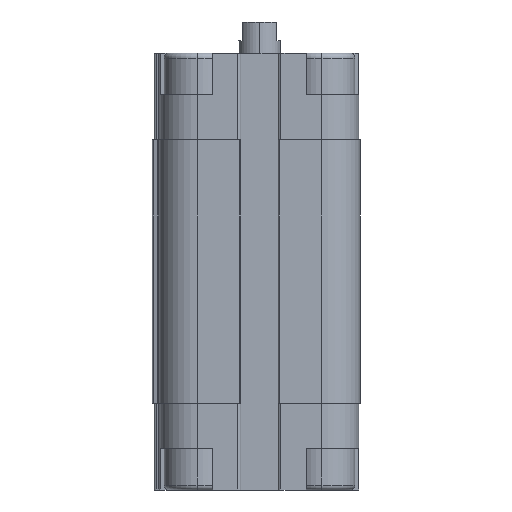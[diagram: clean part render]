
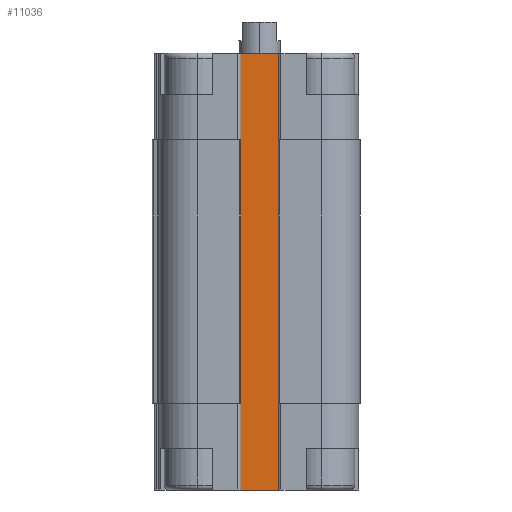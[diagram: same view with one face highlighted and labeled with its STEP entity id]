
A CAD part, left-side view. The second image highlights one B-rep face of the part: STEP entity #11036.
In plain terms, the highlighted planar face has unit normal (-1, 0, 0).
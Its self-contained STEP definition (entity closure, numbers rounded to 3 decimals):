
#1081 = PLANE ( 'NONE',  #15345 ) ;
#1251 = VERTEX_POINT ( 'NONE', #16955 ) ;
#1930 = LINE ( 'NONE', #7296, #6267 ) ;
#2182 = LINE ( 'NONE', #15372, #10431 ) ;
#2336 = DIRECTION ( 'NONE',  ( 0., -1., 0. ) ) ;
#2391 = FACE_OUTER_BOUND ( 'NONE', #9707, .T. ) ;
#2395 = LINE ( 'NONE', #11968, #9684 ) ;
#2806 = VERTEX_POINT ( 'NONE', #13377 ) ;
#2820 = CARTESIAN_POINT ( 'NONE',  ( -9.5, -3.2, -12.5 ) ) ;
#2936 = EDGE_CURVE ( 'NONE', #3792, #9816, #15128, .T. ) ;
#3002 = EDGE_CURVE ( 'NONE', #2806, #8870, #7490, .T. ) ;
#3090 = CARTESIAN_POINT ( 'NONE',  ( -9.5, 3., -63. ) ) ;
#3371 = LINE ( 'NONE', #8727, #7142 ) ;
#3792 = VERTEX_POINT ( 'NONE', #15161 ) ;
#3902 = ORIENTED_EDGE ( 'NONE', *, *, #10226, .T. ) ;
#3989 = ORIENTED_EDGE ( 'NONE', *, *, #14466, .T. ) ;
#4030 = CARTESIAN_POINT ( 'NONE',  ( -9.5, -3.2, -50.5 ) ) ;
#4442 = ORIENTED_EDGE ( 'NONE', *, *, #4549, .F. ) ;
#4549 = EDGE_CURVE ( 'NONE', #11507, #2806, #13981, .T. ) ;
#4765 = DIRECTION ( 'NONE',  ( 0., 0., 1. ) ) ;
#4889 = CARTESIAN_POINT ( 'NONE',  ( -9.5, 3., -63. ) ) ;
#5005 = CARTESIAN_POINT ( 'NONE',  ( -9.5, -3., 0. ) ) ;
#5400 = VECTOR ( 'NONE', #9643, 1000. ) ;
#5835 = CARTESIAN_POINT ( 'NONE',  ( -9.5, -3.2, -50.5 ) ) ;
#5849 = ORIENTED_EDGE ( 'NONE', *, *, #8284, .T. ) ;
#6207 = DIRECTION ( 'NONE',  ( 0., 0., 1. ) ) ;
#6267 = VECTOR ( 'NONE', #11418, 1000. ) ;
#6726 = CARTESIAN_POINT ( 'NONE',  ( -9.5, 3., 0. ) ) ;
#6934 = EDGE_CURVE ( 'NONE', #7515, #6968, #3371, .T. ) ;
#6968 = VERTEX_POINT ( 'NONE', #5835 ) ;
#6972 = VECTOR ( 'NONE', #6207, 1000. ) ;
#7045 = DIRECTION ( 'NONE',  ( 0., -1., 0. ) ) ;
#7052 = VERTEX_POINT ( 'NONE', #9871 ) ;
#7097 = LINE ( 'NONE', #4030, #5400 ) ;
#7142 = VECTOR ( 'NONE', #12772, 1000. ) ;
#7296 = CARTESIAN_POINT ( 'NONE',  ( -9.5, 3.2, -50.5 ) ) ;
#7490 = LINE ( 'NONE', #8883, #14989 ) ;
#7515 = VERTEX_POINT ( 'NONE', #11851 ) ;
#7536 = LINE ( 'NONE', #4889, #10644 ) ;
#7758 = CARTESIAN_POINT ( 'NONE',  ( -9.5, 3., -12.5 ) ) ;
#8034 = VECTOR ( 'NONE', #8359, 1000. ) ;
#8284 = EDGE_CURVE ( 'NONE', #9816, #7515, #2395, .T. ) ;
#8344 = CARTESIAN_POINT ( 'NONE',  ( -9.5, 3.2, -12.5 ) ) ;
#8359 = DIRECTION ( 'NONE',  ( 0., -1., 0. ) ) ;
#8440 = CARTESIAN_POINT ( 'NONE',  ( -9.5, 3.2, -12.5 ) ) ;
#8727 = CARTESIAN_POINT ( 'NONE',  ( -9.5, 3.2, -50.5 ) ) ;
#8756 = ORIENTED_EDGE ( 'NONE', *, *, #6934, .T. ) ;
#8870 = VERTEX_POINT ( 'NONE', #9390 ) ;
#8883 = CARTESIAN_POINT ( 'NONE',  ( -9.5, 3., -12.5 ) ) ;
#9390 = CARTESIAN_POINT ( 'NONE',  ( -9.5, 3., 0. ) ) ;
#9643 = DIRECTION ( 'NONE',  ( 0., 0., 1. ) ) ;
#9650 = EDGE_CURVE ( 'NONE', #8870, #14057, #11990, .T. ) ;
#9684 = VECTOR ( 'NONE', #13121, 1000. ) ;
#9707 = EDGE_LOOP ( 'NONE', ( #11315, #9831, #4442, #13481, #3902, #15091, #14900, #5849, #8756, #15664, #11462, #3989 ) ) ;
#9816 = VERTEX_POINT ( 'NONE', #15312 ) ;
#9831 = ORIENTED_EDGE ( 'NONE', *, *, #3002, .F. ) ;
#9871 = CARTESIAN_POINT ( 'NONE',  ( -9.5, 3., -50.5 ) ) ;
#10226 = EDGE_CURVE ( 'NONE', #1251, #7052, #1930, .T. ) ;
#10429 = LINE ( 'NONE', #15882, #15419 ) ;
#10431 = VECTOR ( 'NONE', #16675, 1000. ) ;
#10474 = DIRECTION ( 'NONE',  ( 0., -1., 0. ) ) ;
#10644 = VECTOR ( 'NONE', #14035, 1000. ) ;
#11020 = CARTESIAN_POINT ( 'NONE',  ( -9.5, -3., -12.5 ) ) ;
#11036 = ADVANCED_FACE ( 'NONE', ( #2391 ), #1081, .T. ) ;
#11315 = ORIENTED_EDGE ( 'NONE', *, *, #9650, .F. ) ;
#11418 = DIRECTION ( 'NONE',  ( 0., -1., 0. ) ) ;
#11462 = ORIENTED_EDGE ( 'NONE', *, *, #15678, .F. ) ;
#11507 = VERTEX_POINT ( 'NONE', #8344 ) ;
#11559 = LINE ( 'NONE', #14207, #6972 ) ;
#11851 = CARTESIAN_POINT ( 'NONE',  ( -9.5, -3., -50.5 ) ) ;
#11905 = VECTOR ( 'NONE', #7045, 1000. ) ;
#11968 = CARTESIAN_POINT ( 'NONE',  ( -9.5, -3., -63. ) ) ;
#11990 = LINE ( 'NONE', #6726, #17311 ) ;
#12273 = VERTEX_POINT ( 'NONE', #2820 ) ;
#12772 = DIRECTION ( 'NONE',  ( 0., -1., 0. ) ) ;
#13118 = DIRECTION ( 'NONE',  ( -1., 0., 0. ) ) ;
#13121 = DIRECTION ( 'NONE',  ( 0., 0., 1. ) ) ;
#13377 = CARTESIAN_POINT ( 'NONE',  ( -9.5, 3., -12.5 ) ) ;
#13481 = ORIENTED_EDGE ( 'NONE', *, *, #16646, .F. ) ;
#13981 = LINE ( 'NONE', #8440, #8034 ) ;
#14035 = DIRECTION ( 'NONE',  ( 0., 0., 1. ) ) ;
#14057 = VERTEX_POINT ( 'NONE', #5005 ) ;
#14207 = CARTESIAN_POINT ( 'NONE',  ( -9.5, -3., -12.5 ) ) ;
#14424 = EDGE_CURVE ( 'NONE', #3792, #7052, #7536, .T. ) ;
#14466 = EDGE_CURVE ( 'NONE', #15912, #14057, #11559, .T. ) ;
#14900 = ORIENTED_EDGE ( 'NONE', *, *, #2936, .T. ) ;
#14989 = VECTOR ( 'NONE', #4765, 1000. ) ;
#15091 = ORIENTED_EDGE ( 'NONE', *, *, #14424, .F. ) ;
#15128 = LINE ( 'NONE', #3090, #11905 ) ;
#15161 = CARTESIAN_POINT ( 'NONE',  ( -9.5, 3., -63. ) ) ;
#15312 = CARTESIAN_POINT ( 'NONE',  ( -9.5, -3., -63. ) ) ;
#15345 = AXIS2_PLACEMENT_3D ( 'NONE', #7758, #13118, #10474 ) ;
#15372 = CARTESIAN_POINT ( 'NONE',  ( -9.5, 3.2, -50.5 ) ) ;
#15419 = VECTOR ( 'NONE', #2336, 1000. ) ;
#15664 = ORIENTED_EDGE ( 'NONE', *, *, #16556, .T. ) ;
#15678 = EDGE_CURVE ( 'NONE', #15912, #12273, #10429, .T. ) ;
#15882 = CARTESIAN_POINT ( 'NONE',  ( -9.5, 9., -12.5 ) ) ;
#15912 = VERTEX_POINT ( 'NONE', #11020 ) ;
#16211 = DIRECTION ( 'NONE',  ( 0., -1., 0. ) ) ;
#16556 = EDGE_CURVE ( 'NONE', #6968, #12273, #7097, .T. ) ;
#16646 = EDGE_CURVE ( 'NONE', #1251, #11507, #2182, .T. ) ;
#16675 = DIRECTION ( 'NONE',  ( 0., 0., 1. ) ) ;
#16955 = CARTESIAN_POINT ( 'NONE',  ( -9.5, 3.2, -50.5 ) ) ;
#17311 = VECTOR ( 'NONE', #16211, 1000. ) ;
